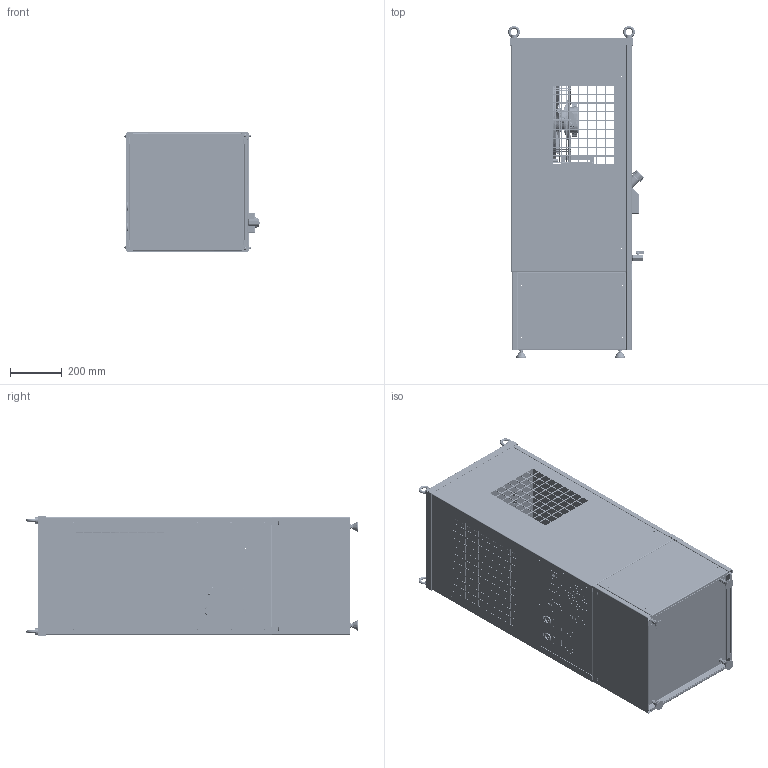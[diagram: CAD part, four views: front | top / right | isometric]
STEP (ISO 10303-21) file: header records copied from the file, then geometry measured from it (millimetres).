
FILE_DESCRIPTION (( 'STEP AP203' ), '1' );
FILE_NAME ('COPIA_ECP1H-D_REV_00.STEP', '2026-07-23T09:44:42', ( '' ), ( '' ), 'SwSTEP 2.0', 'SolidWorks 2023', '' );
FILE_SCHEMA (( 'CONFIG_CONTROL_DESIGN' ));
Length unit declared in the file: millimetre
Products named in the file (111): COPIA_CO-CF-00148-EURC341_REV.0_25.07.202521; COPIA_CO-CF-00148-EURC341_REV.0_25.07.202548; COPIA_CO-CF-00148-EURC341_REV.0_25.07.20259; COPIA_CO-CF-00148-EURC341_REV.0_25.07.202530; COPIA_CO-CF-00148-EURC341_REV.0_25.07.202556; COPIA_CO-CF-00148-EURC341_REV.0_25.07.2025; COPIA_VR-1C-00058_001B; COPIA_CO-CF-00148-EURC341_REV.0_25.07.202511; COPIA_CO-CF-00148-EURC341_REV.0_25.07.202514; COPIA_CO-CF-00148-EURC341_REV.0_25.07.202559; COPIA_CO-CF-00148-EURC341_REV.0_25.07.202549; COPIA_CO-CF-00148-EURC341_REV.0_25.07.202515; COPIA_CO-CF-00148-EURC341_REV.0_25.07.202533; COPIA_VR-1C-00058_001F; COPIA_ZP-TA-00006_1; COPIA_VR-1C-00057_001; COPIA_CO-CF-00148-EURC341_REV.0_25.07.202517; COPIA_VR-1C-00058_001D; COPIA_CR-1C-00040_000; COPIA_CO-CF-00148-EURC341_REV.0_25.07.202546; COPIA_CO-CF-00148-EURC341_REV.0_25.07.202563; COPIA_CO-CF-00148-EURC341_REV.0_25.07.20254; COPIA_CO-CF-00148-EURC341_REV.0_25.07.202537; COPIA_VR-1C-00058_001E_Default<A macchina>; COPIA_AN-PI-00014_ANTIVIBRANTI MM PIEDE 40X20h M10; COPIA_CO-CF-00148-EURC341_REV.0_25.07.202520; COPIA_VR-1C-00055_000; COPIA_ZF-BU-00027_000; COPIA_CO-CF-00148-EURC341_REV.0_25.07.202540; COPIA_CO-CF-00148-EURC341_REV.0_25.07.202518; COPIA_CO-CF-00148-EURC341_REV.0_25.07.20253; COPIA_CO-CF-00148-EURC341_REV.0_25.07.202554; COPIA_FILETTO_RUBINETTO_VA-A5-00001; COPIA_CO-CF-00148_001_NON ACCORCIATO; COPIA_VE-W1-00003; COPIA_CO-CF-00148-EURC341_REV.0_25.07.202516; COPIA_CO-CF-00148-EURC341_REV.0_25.07.2025 (2); COPIA_TUBO CONDENSATORE-43-MI-E0002-3; COPIA_CO-CF-00148-EURC341_REV.0_25.07.202547; COPIA_CO-CF-00148-EURC341_REV.0_25.07.20255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
Assembly tree (188 placements, depth 5):
  COPIA_ECP1H-D_REV_00
    COPIA_43-MI-E0002_43-MI-E0003 LP25 NO EVAP
      COPIA_50-1C-00023_senza piastrina
        COPIA_CR-1C-00041_000
        COPIA_CR-1C-00040_000
        COPIA_CR-1C-00042_001
        COPIA_VR-1C-00017_003
        COPIA_VR-1C-00018_003
        COPIA_CR-1C-00033_000
        COPIA_VR-1C-00036_001
        COPIA_VR-1C-00014_002
        COPIA_VR-1C-00015_002
        COPIA_TA-RG-00041
        COPIA_CR-1C-00027_010
      COPIA_CO-CF-00148-EURC341_REV.0_25.07.2025
        COPIA_CO-CF-00148-EURC341_REV.0_25.07.2025 (2)
          COPIA_CO-CF-00148-EURC341_REV.0_25.07.20251
          COPIA_CO-CF-00148-EURC341_REV.0_25.07.20252
          COPIA_CO-CF-00148-EURC341_REV.0_25.07.20253
          COPIA_CO-CF-00148-EURC341_REV.0_25.07.20254
          COPIA_CO-CF-00148-EURC341_REV.0_25.07.20255
          COPIA_CO-CF-00148-EURC341_REV.0_25.07.20256
          COPIA_CO-CF-00148-EURC341_REV.0_25.07.20257
          COPIA_CO-CF-00148-EURC341_REV.0_25.07.20258
          COPIA_CO-CF-00148-EURC341_REV.0_25.07.20259
          COPIA_CO-CF-00148-EURC341_REV.0_25.07.202510
          COPIA_CO-CF-00148-EURC341_REV.0_25.07.202512
          COPIA_CO-CF-00148-EURC341_REV.0_25.07.202514
          COPIA_CO-CF-00148-EURC341_REV.0_25.07.202515
          COPIA_CO-CF-00148-EURC341_REV.0_25.07.202516
          COPIA_CO-CF-00148-EURC341_REV.0_25.07.202517
          COPIA_CO-CF-00148-EURC341_REV.0_25.07.202518
          COPIA_CO-CF-00148-EURC341_REV.0_25.07.202519
          COPIA_CO-CF-00148-EURC341_REV.0_25.07.202520
          COPIA_CO-CF-00148-EURC341_REV.0_25.07.202521
          COPIA_CO-CF-00148-EURC341_REV.0_25.07.202522
          COPIA_CO-CF-00148-EURC341_REV.0_25.07.202523
          COPIA_CO-CF-00148-EURC341_REV.0_25.07.202524
          COPIA_CO-CF-00148-EURC341_REV.0_25.07.202525
          COPIA_CO-CF-00148-EURC341_REV.0_25.07.202526
          COPIA_CO-CF-00148-EURC341_REV.0_25.07.202527
          COPIA_CO-CF-00148-EURC341_REV.0_25.07.202528
          COPIA_CO-CF-00148-EURC341_REV.0_25.07.202529
          COPIA_CO-CF-00148-EURC341_REV.0_25.07.202530
          COPIA_CO-CF-00148-EURC341_REV.0_25.07.202531
          COPIA_CO-CF-00148-EURC341_REV.0_25.07.202532
          COPIA_CO-CF-00148-EURC341_REV.0_25.07.202533
          COPIA_CO-CF-00148-EURC341_REV.0_25.07.202534
          COPIA_CO-CF-00148-EURC341_REV.0_25.07.202535
          COPIA_CO-CF-00148-EURC341_REV.0_25.07.202537
          COPIA_CO-CF-00148-EURC341_REV.0_25.07.202538
          COPIA_CO-CF-00148-EURC341_REV.0_25.07.202539
          COPIA_CO-CF-00148-EURC341_REV.0_25.07.202540
          COPIA_CO-CF-00148-EURC341_REV.0_25.07.202541
          COPIA_CO-CF-00148-EURC341_REV.0_25.07.202542
          COPIA_CO-CF-00148-EURC341_REV.0_25.07.202543
          COPIA_CO-CF-00148-EURC341_REV.0_25.07.202544
          COPIA_CO-CF-00148-EURC341_REV.0_25.07.202545
          COPIA_CO-CF-00148-EURC341_REV.0_25.07.202546
          COPIA_CO-CF-00148-EURC341_REV.0_25.07.202547
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Bounding box: 521.92 x 1277.5 x 460 mm (x, y, z)
Volume: 25395052.4 mm3; surface area: 12947640.8 mm2
Topology: 221 solids, 347 shells, 10001 faces, 26365 edges, 16939 vertices
Faces by surface type: plane 5252, cylinder 3160, bspline 734, torus 430, cone 390, sphere 35
Entity records: 443169 total; most frequent: CARTESIAN_POINT 205326, ORIENTED_EDGE 47868, DIRECTION 42484, EDGE_CURVE 24093, VERTEX_POINT 15555, VECTOR 14976, LINE 14976, AXIS2_PLACEMENT_3D 13754
